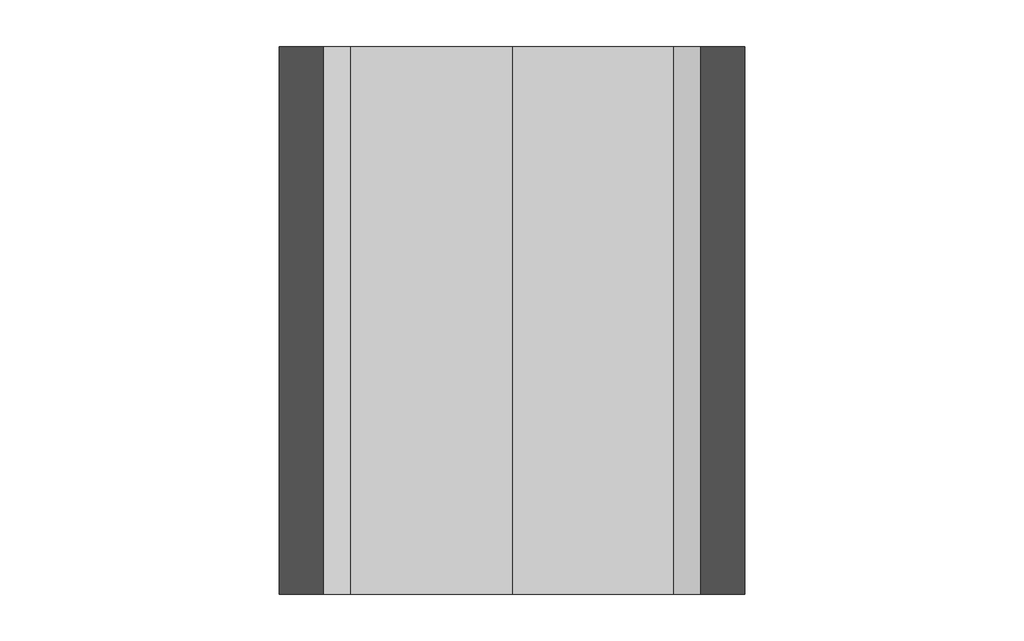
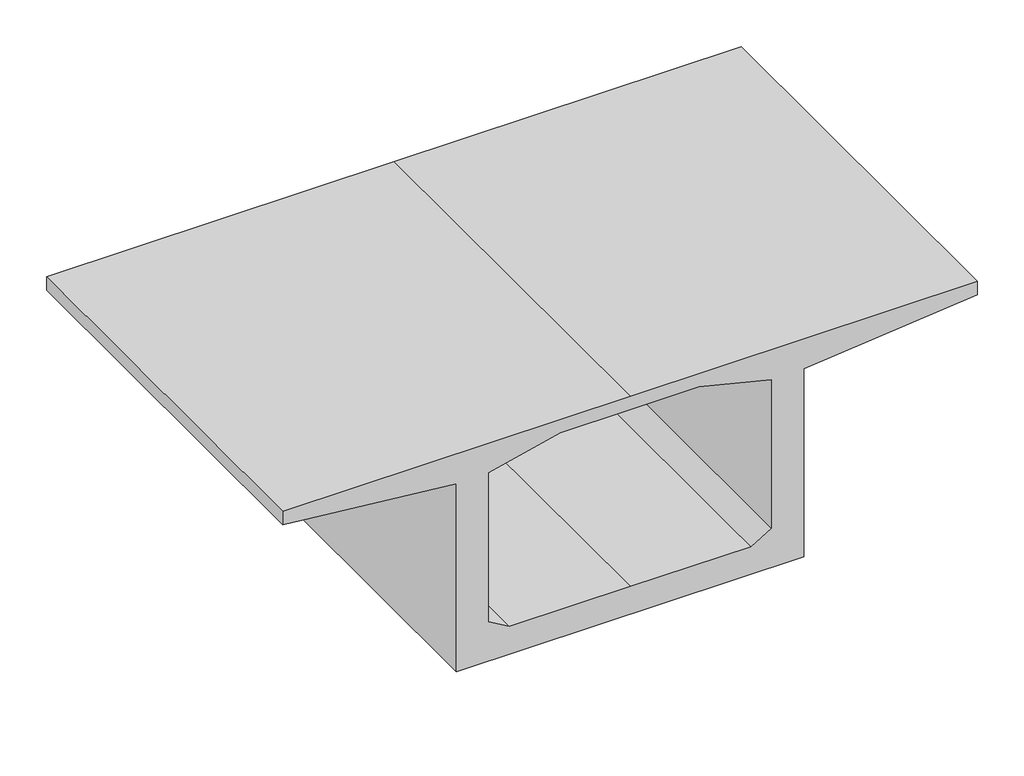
# One storey: 1 beam.
"""IFC4 building model written with IfcOpenShell, lengths in millimetres."""

from ifc_helpers import new_model, si_unit, origin, place, context, project, spatial, transform, mapped, element, save
from components import beam_bb3914b2

model = new_model("IFC4")

# Units and contexts
model_context = context("Model", 3, world=origin())
ifc_project = project(units=[si_unit("LENGTHUNIT", "METRE", prefix="MILLI")], contexts=[model_context])

# Site, building, storey
site = spatial("IfcSite", under=ifc_project)
building = spatial("IfcBuilding", under=site)
storey = spatial("IfcBuildingStorey", under=building, Name="标高 1", Elevation=0.0)

# Beam
placement = place(None, origin())
beam_shape = beam_bb3914b2(model_context)
element("IfcBeam", 1, ObjectType="箱梁 : 箱梁", at=placement, inside=storey, context=model_context, shape_type="MappedRepresentation", body=[
    mapped(beam_shape, transform((0.0, 0.0, 0.0), x_axis=(1.0, 0.0, 0.0), y_axis=(0.0, 1.0, 0.0), z_axis=(0.0, 0.0, 1.0))),
])

save(model, "model.ifc")
